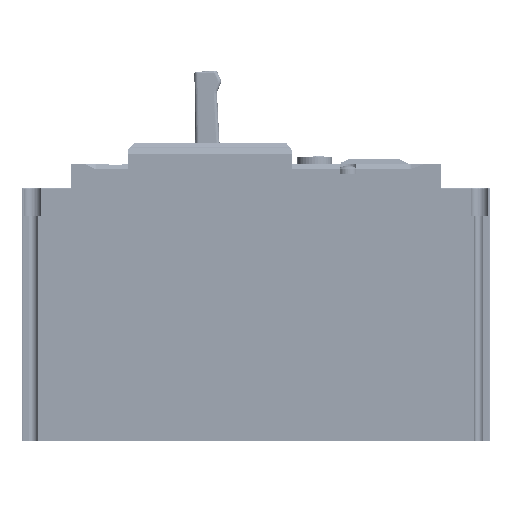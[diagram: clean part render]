
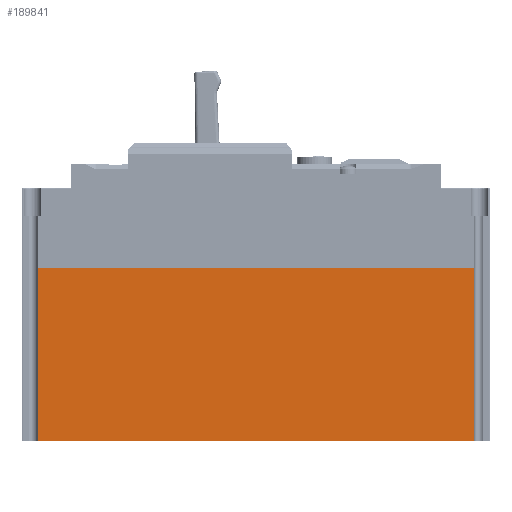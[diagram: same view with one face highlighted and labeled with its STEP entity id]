
A CAD part, left-side view. The second image highlights one B-rep face of the part: STEP entity #189841.
In plain terms, the highlighted planar face has unit normal (-1, 0, 0).
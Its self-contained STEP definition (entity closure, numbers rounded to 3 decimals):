
#2744 = CARTESIAN_POINT ( 'NONE',  ( -65.364, 61.488, 35.143 ) ) ;
#11091 = VERTEX_POINT ( 'NONE', #338345 ) ;
#16530 = CARTESIAN_POINT ( 'NONE',  ( -65.364, 65.988, 35.143 ) ) ;
#18125 = ORIENTED_EDGE ( 'NONE', *, *, #231525, .F. ) ;
#22599 = EDGE_CURVE ( 'NONE', #97014, #11091, #305183, .T. ) ;
#84899 = AXIS2_PLACEMENT_3D ( 'NONE', #270609, #94139, #233960 ) ;
#94139 = DIRECTION ( 'NONE',  ( 1., 0., 0. ) ) ;
#97014 = VERTEX_POINT ( 'NONE', #2744 ) ;
#119067 = EDGE_CURVE ( 'NONE', #163875, #228766, #414950, .T. ) ;
#137613 = CARTESIAN_POINT ( 'NONE',  ( -65.364, 65.988, -14.857 ) ) ;
#151342 = ORIENTED_EDGE ( 'NONE', *, *, #22599, .F. ) ;
#163875 = VERTEX_POINT ( 'NONE', #272464 ) ;
#189841 = ADVANCED_FACE ( 'NONE', ( #442517 ), #268346, .F. ) ;
#208060 = LINE ( 'NONE', #382184, #234498 ) ;
#227315 = VECTOR ( 'NONE', #277426, 1000. ) ;
#228766 = VERTEX_POINT ( 'NONE', #427013 ) ;
#231525 = EDGE_CURVE ( 'NONE', #163875, #97014, #435203, .T. ) ;
#233960 = DIRECTION ( 'NONE',  ( 0., 1., 0. ) ) ;
#234498 = VECTOR ( 'NONE', #350064, 1000. ) ;
#268346 = PLANE ( 'NONE',  #84899 ) ;
#269091 = ORIENTED_EDGE ( 'NONE', *, *, #403920, .T. ) ;
#270609 = CARTESIAN_POINT ( 'NONE',  ( -65.364, 65.988, 35.143 ) ) ;
#270866 = ORIENTED_EDGE ( 'NONE', *, *, #119067, .T. ) ;
#272464 = CARTESIAN_POINT ( 'NONE',  ( -65.364, 61.488, -14.857 ) ) ;
#277426 = DIRECTION ( 'NONE',  ( 0., -1., 0. ) ) ;
#290900 = CARTESIAN_POINT ( 'NONE',  ( -65.364, 61.488, -14.857 ) ) ;
#305183 = LINE ( 'NONE', #16530, #335382 ) ;
#335382 = VECTOR ( 'NONE', #399295, 1000. ) ;
#338345 = CARTESIAN_POINT ( 'NONE',  ( -65.364, -64.512, 35.143 ) ) ;
#350064 = DIRECTION ( 'NONE',  ( 0., 0., 1. ) ) ;
#382184 = CARTESIAN_POINT ( 'NONE',  ( -65.364, -64.512, -14.857 ) ) ;
#399295 = DIRECTION ( 'NONE',  ( 0., -1., 0. ) ) ;
#400789 = DIRECTION ( 'NONE',  ( 0., 0., 1. ) ) ;
#403920 = EDGE_CURVE ( 'NONE', #228766, #11091, #208060, .T. ) ;
#414950 = LINE ( 'NONE', #137613, #227315 ) ;
#427013 = CARTESIAN_POINT ( 'NONE',  ( -65.364, -64.512, -14.857 ) ) ;
#427553 = EDGE_LOOP ( 'NONE', ( #270866, #269091, #151342, #18125 ) ) ;
#435203 = LINE ( 'NONE', #290900, #437026 ) ;
#437026 = VECTOR ( 'NONE', #400789, 1000. ) ;
#442517 = FACE_OUTER_BOUND ( 'NONE', #427553, .T. ) ;
